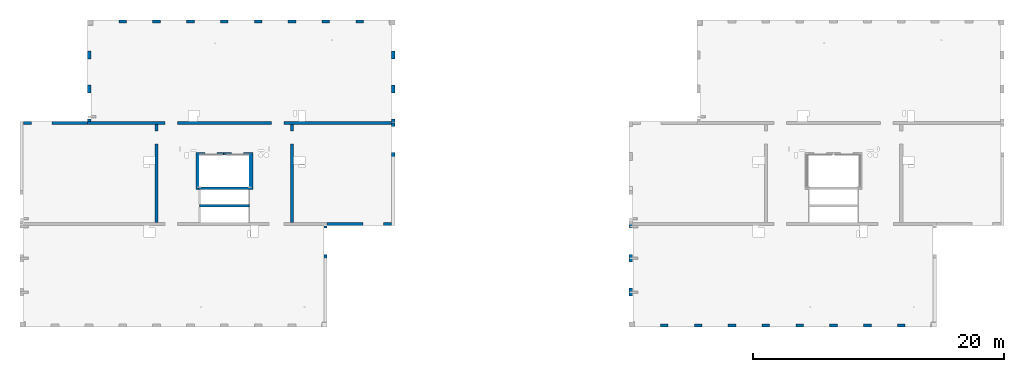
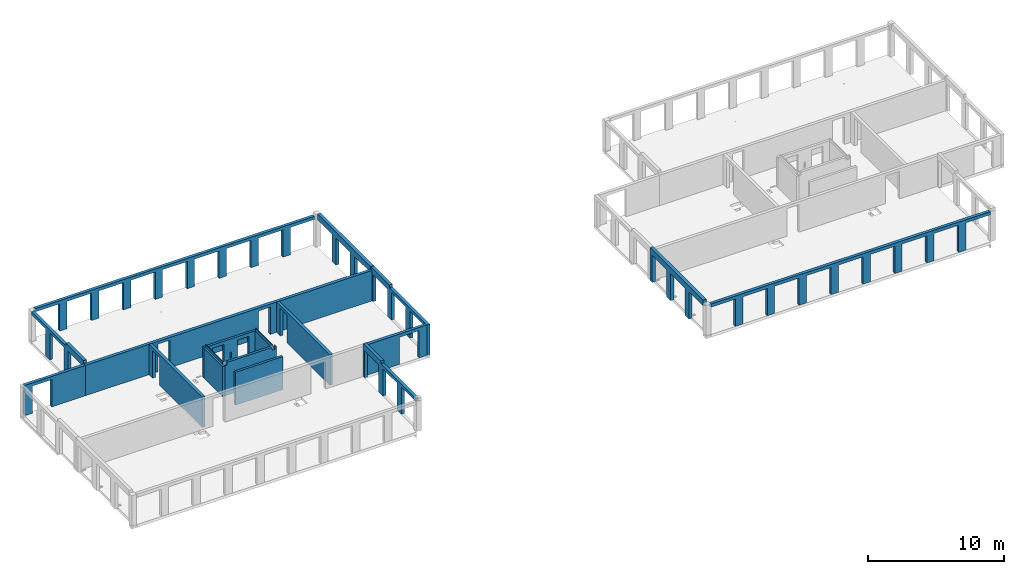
# One storey, part 3 of 8: 19 walls, 47 openings.
"""IFC2X3 building model written with IfcOpenShell, lengths in millimetres."""

from ifc_helpers import new_model, entity, si_unit, converted_unit, derived_unit, direction, frame, frame_2d, origin, origin_2d_with_axis, place, context, subcontext, project, spatial, rectangle, extrude, material, layer, layer_set, layer_usage, type_object, element, save


model = new_model("IFC2X3")

# Units and contexts
model_context = context("Model", 3, precision=0.01, world=origin(), true_north=direction((6.12303176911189e-17, 1.0)))
body_context = subcontext(model_context, "Body", "Model", "MODEL_VIEW")
ifc_project = project(units=[si_unit("LENGTHUNIT", "METRE", prefix="MILLI"), si_unit("AREAUNIT", "SQUARE_METRE"), si_unit("VOLUMEUNIT", "CUBIC_METRE"), converted_unit("PLANEANGLEUNIT", "DEGREE", entity("IfcRatioMeasure", 0.0174532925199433), si_unit("PLANEANGLEUNIT", "RADIAN"), dimensions=[0, 0, 0, 0, 0, 0, 0]), si_unit("MASSUNIT", "GRAM", prefix="KILO"), derived_unit("MASSDENSITYUNIT", [(si_unit("MASSUNIT", "GRAM", prefix="KILO"), 1), (si_unit("LENGTHUNIT", "METRE"), -3)]), si_unit("TIMEUNIT", "SECOND"), si_unit("FREQUENCYUNIT", "HERTZ"), si_unit("THERMODYNAMICTEMPERATUREUNIT", "DEGREE_CELSIUS"), derived_unit("THERMALTRANSMITTANCEUNIT", [(si_unit("MASSUNIT", "GRAM", prefix="KILO"), 1), (si_unit("THERMODYNAMICTEMPERATUREUNIT", "KELVIN"), -1), (si_unit("TIMEUNIT", "SECOND"), -3)]), derived_unit("VOLUMETRICFLOWRATEUNIT", [(si_unit("LENGTHUNIT", "METRE"), 3), (si_unit("TIMEUNIT", "SECOND"), -1)]), si_unit("ELECTRICCURRENTUNIT", "AMPERE"), si_unit("ELECTRICVOLTAGEUNIT", "VOLT"), si_unit("POWERUNIT", "WATT"), si_unit("FORCEUNIT", "NEWTON", prefix="KILO"), si_unit("ILLUMINANCEUNIT", "LUX"), si_unit("LUMINOUSFLUXUNIT", "LUMEN"), si_unit("LUMINOUSINTENSITYUNIT", "CANDELA"), derived_unit("USERDEFINED", [(si_unit("MASSUNIT", "GRAM", prefix="KILO"), -1), (si_unit("LENGTHUNIT", "METRE"), -2), (si_unit("TIMEUNIT", "SECOND"), 3), (si_unit("LUMINOUSFLUXUNIT", "LUMEN"), 1)]), derived_unit("LINEARVELOCITYUNIT", [(si_unit("LENGTHUNIT", "METRE"), 1), (si_unit("TIMEUNIT", "SECOND"), -1)]), si_unit("PRESSUREUNIT", "PASCAL"), derived_unit("USERDEFINED", [(si_unit("LENGTHUNIT", "METRE"), -2), (si_unit("MASSUNIT", "GRAM", prefix="KILO"), 1), (si_unit("TIMEUNIT", "SECOND"), -2)])], contexts=[model_context])

# Site, building, storey
site_placement = place(None, origin())
site = spatial("IfcSite", under=ifc_project, at=site_placement, Name="Default", CompositionType="ELEMENT")
building_placement = place(site_placement, origin())
building = spatial("IfcBuilding", under=site, at=building_placement, Name="niet gebruiken", CompositionType="ELEMENT")
storey_placement = place(building_placement, frame((0.0, 0.0, 45270.0)))
storey = spatial("IfcBuildingStorey", under=building, at=storey_placement, Name="15 vijftiende verdieping", CompositionType="ELEMENT", Elevation=45270.0)

# Wall, opening
ifc_material_1 = material(Name="NLRS_f2_beton ihwg")
ifc_layer_1 = layer(ifc_material_1, 250.0)
ifc_layer_set_1 = layer_set([ifc_layer_1], Name="Basic Wall:NLRS_22.21_WA_beton ihwg d=250_gen")
ifc_layer_usage_1 = layer_usage(ifc_layer_set_1, "AXIS2", "NEGATIVE", 125.0)
wall_type_1 = type_object("IfcWallType", Name="Basic Wall:NLRS_22.21_WA_beton ihwg d=250_gen", PredefinedType="STANDARD", material=ifc_layer_set_1)
wall_1_placement = place(storey_placement, frame((27170.0, 45031.0, -90.0)))
wall_1 = element("IfcWallStandardCase", 1, at=wall_1_placement, inside=storey, type_object=wall_type_1, material=ifc_layer_usage_1, Name="Basic Wall:NLRS_22.21_WA_beton ihwg d=250_gen", ObjectType="Basic Wall:NLRS_22.21_WA_beton ihwg d=250_gen", context=body_context, shape_type="SweptSolid", body=[
    extrude(rectangle(XDim=5130.0, YDim=249.999999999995, at=frame_2d((2565.0, 0.0), x_axis=(-1.0, 0.0))), origin(), (0.0, 0.0, 1.0), 2719.99999999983),
])
opening_1_placement = place(wall_1_placement, origin())
element("IfcOpeningElement", 2, at=opening_1_placement, cuts=wall_1, Name="Basic Wall:NLRS_22.21_WA_beton ihwg d=250_gen", ObjectType="Opening", context=body_context, shape_type="SweptSolid", body=[
    extrude(rectangle(XDim=2440.0, YDim=1640.0, at=origin_2d_with_axis()), frame((1460.0, -1649.0, 1220.0), z_axis=(0.0, 1.0, 0.0), x_axis=(0.0, 0.0, 1.0)), (0.0, 0.0, 1.0), 3048.0),
])

ifc_layer_usage_2 = layer_usage(ifc_layer_set_1, "AXIS2", "NEGATIVE", 125.0)
wall_2_placement = place(storey_placement, frame((37800.0, 44906.0, -90.0), z_axis=(0.0, 0.0, 1.0), x_axis=(0.0, -1.0, 0.0)))
wall_2 = element("IfcWallStandardCase", 3, at=wall_2_placement, inside=storey, type_object=wall_type_1, material=ifc_layer_usage_2, Name="Basic Wall:NLRS_22.21_WA_beton ihwg d=250_gen", ObjectType="Basic Wall:NLRS_22.21_WA_beton ihwg d=250_gen", context=body_context, shape_type="SweptSolid", body=[
    extrude(rectangle(XDim=7799.99999999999, YDim=250.000000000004, at=frame_2d((3900.0, 0.0), x_axis=(-1.0, 0.0))), origin(), (0.0, 0.0, 1.0), 2719.99999999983),
])
opening_2_placement = place(wall_2_placement, origin())
element("IfcOpeningElement", 4, at=opening_2_placement, cuts=wall_2, Name="Basic Wall:NLRS_22.21_WA_beton ihwg d=250_gen", ObjectType="Opening", context=body_context, shape_type="SweptSolid", body=[
    extrude(rectangle(XDim=2470.0, YDim=1006.0, at=frame_2d((-4.43378667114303e-12, 0.0), x_axis=(1.0, 0.0))), frame((1027.0, -1649.0, 1235.0), z_axis=(0.0, 1.0, 0.0), x_axis=(0.0, 0.0, 1.0)), (0.0, 0.0, 1.0), 3048.0),
])

ifc_layer_usage_3 = layer_usage(ifc_layer_set_1, "AXIS2", "NEGATIVE", 125.0)
wall_3_placement = place(storey_placement, frame((48600.0, 44906.0, -90.0), z_axis=(0.0, 0.0, 1.0), x_axis=(0.0, -1.0, 0.0)))
wall_3 = element("IfcWallStandardCase", 5, at=wall_3_placement, inside=storey, type_object=wall_type_1, material=ifc_layer_usage_3, Name="Basic Wall:NLRS_22.21_WA_beton ihwg d=250_gen", ObjectType="Basic Wall:NLRS_22.21_WA_beton ihwg d=250_gen", context=body_context, shape_type="SweptSolid", body=[
    extrude(rectangle(XDim=7799.99999999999, YDim=249.999999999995, at=frame_2d((3900.0, 0.0), x_axis=(-1.0, 0.0))), origin(), (0.0, 0.0, 1.0), 2719.99999999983),
])
opening_3_placement = place(wall_3_placement, origin())
element("IfcOpeningElement", 6, at=opening_3_placement, cuts=wall_3, Name="Basic Wall:NLRS_22.21_WA_beton ihwg d=250_gen", ObjectType="Opening", context=body_context, shape_type="SweptSolid", body=[
    extrude(rectangle(XDim=2470.0, YDim=1006.0, at=frame_2d((-4.43378667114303e-12, 0.0), x_axis=(1.0, 0.0))), frame((1027.0, -1649.0, 1235.0), z_axis=(0.0, 1.0, 0.0), x_axis=(0.0, 0.0, 1.0)), (0.0, 0.0, 1.0), 3048.0),
])

# Wall, openings
ifc_layer_usage_4 = layer_usage(ifc_layer_set_1, "AXIS2", "NEGATIVE", 125.0)
wall_4_placement = place(storey_placement, frame((32300.0, 45031.0, -90.0)))
wall_4 = element("IfcWallStandardCase", 7, at=wall_4_placement, inside=storey, type_object=wall_type_1, material=ifc_layer_usage_4, Name="Basic Wall:NLRS_22.21_WA_beton ihwg d=250_gen", ObjectType="Basic Wall:NLRS_22.21_WA_beton ihwg d=250_gen", context=body_context, shape_type="SweptSolid", body=[
    extrude(rectangle(XDim=24250.0, YDim=249.999999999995, at=frame_2d((12125.0, 0.0), x_axis=(-1.0, 0.0))), origin(), (0.0, 0.0, 1.0), 2719.99999999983),
])
opening_4_placement = place(wall_4_placement, origin())
element("IfcOpeningElement", 8, at=opening_4_placement, cuts=wall_4, Name="Basic Wall:NLRS_22.21_WA_beton ihwg d=250_gen", ObjectType="Opening", context=body_context, shape_type="SweptSolid", body=[
    extrude(rectangle(XDim=2470.0, YDim=1006.0, at=frame_2d((-4.43378667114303e-12, 0.0), x_axis=(1.0, 0.0))), frame((15148.0, -1649.0, 1235.0), z_axis=(0.0, 1.0, 0.0), x_axis=(0.0, 0.0, 1.0)), (0.0, 0.0, 1.0), 3048.0),
])
opening_5_placement = place(wall_4_placement, origin())
element("IfcOpeningElement", 9, at=opening_5_placement, cuts=wall_4, Name="Basic Wall:NLRS_22.21_WA_beton ihwg d=250_gen", ObjectType="Opening", context=body_context, shape_type="SweptSolid", body=[
    extrude(rectangle(XDim=2470.0, YDim=1006.0, at=frame_2d((4.43378667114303e-12, 2.1600499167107e-12), x_axis=(1.0, 0.0))), frame((6652.0, -1649.0, 1235.0), z_axis=(0.0, 1.0, 0.0), x_axis=(0.0, 0.0, 1.0)), (0.0, 0.0, 1.0), 3048.0),
])

# Wall, opening
ifc_layer_usage_5 = layer_usage(ifc_layer_set_1, "AXIS2", "NEGATIVE", 125.0)
wall_5_placement = place(storey_placement, frame((51400.0, 36981.0, -90.0)))
wall_5 = element("IfcWallStandardCase", 10, at=wall_5_placement, inside=storey, type_object=wall_type_1, material=ifc_layer_usage_5, Name="Basic Wall:NLRS_22.21_WA_beton ihwg d=250_gen", ObjectType="Basic Wall:NLRS_22.21_WA_beton ihwg d=250_gen", context=body_context, shape_type="SweptSolid", body=[
    extrude(rectangle(XDim=5150.0, YDim=250.000000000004, at=frame_2d((2575.0, 0.0), x_axis=(-1.0, 0.0))), origin(), (0.0, 0.0, 1.0), 2719.99999999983),
])
opening_6_placement = place(wall_5_placement, origin())
element("IfcOpeningElement", 11, at=opening_6_placement, cuts=wall_5, Name="Basic Wall:NLRS_22.21_WA_beton ihwg d=250_gen", ObjectType="Opening", context=body_context, shape_type="SweptSolid", body=[
    extrude(rectangle(XDim=2440.0, YDim=1640.0, at=frame_2d((-4.37694325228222e-12, 0.0), x_axis=(0.0, 1.0))), frame((3670.0, -1399.0, 1220.0), z_axis=(0.0, 1.0, 0.0), x_axis=(-1.0, 0.0, 0.0)), (0.0, 0.0, 1.0), 3048.0),
])

# Wall, openings
ifc_material_2 = material(Name="NLRS_f2_beton prefab")
ifc_layer_2 = layer(ifc_material_2, 250.0)
ifc_layer_set_2 = layer_set([ifc_layer_2], Name="Basic Wall:NLRS_21.21_WA_beton prefab d=250_gen")
ifc_layer_usage_6 = layer_usage(ifc_layer_set_2, "AXIS2", "NEGATIVE", 125.0)
wall_type_2 = type_object("IfcWallType", Name="Basic Wall:NLRS_21.21_WA_beton prefab d=250_gen", PredefinedType="STANDARD", material=ifc_layer_set_2)
wall_6_placement = place(storey_placement, frame((32425.0, 52846.0, -70.0), z_axis=(0.0, 0.0, 1.0), x_axis=(0.0, -1.0, 0.0)))
wall_6 = element("IfcWallStandardCase", 12, at=wall_6_placement, inside=storey, type_object=wall_type_2, material=ifc_layer_usage_6, Name="Basic Wall:NLRS_21.21_WA_beton prefab d=250_gen", ObjectType="Basic Wall:NLRS_21.21_WA_beton prefab d=250_gen", context=body_context, shape_type="SweptSolid", body=[
    extrude(rectangle(XDim=7670.00000000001, YDim=250.000000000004, at=frame_2d((3835.0, 0.0), x_axis=(-1.0, 0.0))), origin(), (0.0, 0.0, 1.0), 2949.99999999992),
])
opening_7_placement = place(wall_6_placement, origin())
element("IfcOpeningElement", 13, at=opening_7_placement, cuts=wall_6, Name="Basic Wall:NLRS_21.21_WA_beton prefab d=250_gen", ObjectType="Opening", context=body_context, shape_type="SweptSolid", body=[
    extrude(rectangle(XDim=2420.0, YDim=2080.0, at=frame_2d((0.0, 0.0), x_axis=(0.0, 1.0))), frame((1040.0, -1399.0, 1210.0), z_axis=(0.0, 1.0, 0.0), x_axis=(-1.0, 0.0, 0.0)), (0.0, 0.0, 1.0), 3048.0),
])
opening_8_placement = place(wall_6_placement, origin())
element("IfcOpeningElement", 14, at=opening_8_placement, cuts=wall_6, Name="Basic Wall:NLRS_21.21_WA_beton prefab d=250_gen", ObjectType="Opening", context=body_context, shape_type="SweptSolid", body=[
    extrude(rectangle(XDim=2420.0, YDim=2080.0, at=frame_2d((0.0, 0.0), x_axis=(0.0, 1.0))), frame((3740.0, -1399.0, 1210.0), z_axis=(0.0, 1.0, 0.0), x_axis=(-1.0, 0.0, 0.0)), (0.0, 0.0, 1.0), 3048.0),
])
opening_9_placement = place(wall_6_placement, origin())
element("IfcOpeningElement", 15, at=opening_9_placement, cuts=wall_6, Name="Basic Wall:NLRS_21.21_WA_beton prefab d=250_gen", ObjectType="Opening", context=body_context, shape_type="SweptSolid", body=[
    extrude(rectangle(XDim=2420.0, YDim=2080.0, at=frame_2d((0.0, 0.0), x_axis=(0.0, 1.0))), frame((6440.0, -1399.0, 1210.0), z_axis=(0.0, 1.0, 0.0), x_axis=(-1.0, 0.0, 0.0)), (0.0, 0.0, 1.0), 3048.0),
])
opening_10_placement = place(wall_6_placement, origin())
element("IfcOpeningElement", 16, at=opening_10_placement, cuts=wall_6, Name="Basic Wall:NLRS_21.21_WA_beton prefab d=250_gen", ObjectType="Opening", context=body_context, shape_type="SweptSolid", body=[
    extrude(rectangle(XDim=250.000000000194, YDim=5089.99999999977, at=frame_2d((4.32009983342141e-12, -4.32720526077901e-12), x_axis=(0.0, 1.0))), frame((2545.0, 125.0, 2825.0), z_axis=(0.0, -1.0, 0.0), x_axis=(-1.0, 0.0, 0.0)), (0.0, 0.0, 1.0), 250.0),
])

ifc_layer_usage_7 = layer_usage(ifc_layer_set_2, "AXIS2", "NEGATIVE", 125.0)
wall_7_placement = place(storey_placement, frame((56675.0, 45046.0, -70.0), z_axis=(0.0, 0.0, 1.0), x_axis=(0.0, -1.0, 0.0)))
wall_7 = element("IfcWallStandardCase", 17, at=wall_7_placement, inside=storey, type_object=wall_type_2, material=ifc_layer_usage_7, Name="Basic Wall:NLRS_21.21_WA_beton prefab d=250_gen", ObjectType="Basic Wall:NLRS_21.21_WA_beton prefab d=250_gen", context=body_context, shape_type="SweptSolid", body=[
    extrude(rectangle(XDim=8189.99999999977, YDim=249.999999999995, at=frame_2d((4094.99999999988, 0.0), x_axis=(-1.0, 0.0))), origin(), (0.0, 0.0, 1.0), 2949.99999999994),
])
opening_11_placement = place(wall_7_placement, origin())
element("IfcOpeningElement", 18, at=opening_11_placement, cuts=wall_7, Name="Basic Wall:NLRS_21.21_WA_beton prefab d=250_gen", ObjectType="Opening", context=body_context, shape_type="SweptSolid", body=[
    extrude(rectangle(XDim=2420.0, YDim=2080.0, at=frame_2d((0.0, 0.0), x_axis=(0.0, 1.0))), frame((1340.0, -1399.0, 1210.0), z_axis=(0.0, 1.0, 0.0), x_axis=(-1.0, 0.0, 0.0)), (0.0, 0.0, 1.0), 3048.0),
])
opening_12_placement = place(wall_7_placement, origin())
element("IfcOpeningElement", 19, at=opening_12_placement, cuts=wall_7, Name="Basic Wall:NLRS_21.21_WA_beton prefab d=250_gen", ObjectType="Opening", context=body_context, shape_type="SweptSolid", body=[
    extrude(rectangle(XDim=2420.0, YDim=2080.0, at=frame_2d((0.0, 0.0), x_axis=(0.0, 1.0))), frame((4040.0, -1399.0, 1210.0), z_axis=(0.0, 1.0, 0.0), x_axis=(-1.0, 0.0, 0.0)), (0.0, 0.0, 1.0), 3048.0),
])
opening_13_placement = place(wall_7_placement, origin())
element("IfcOpeningElement", 20, at=opening_13_placement, cuts=wall_7, Name="Basic Wall:NLRS_21.21_WA_beton prefab d=250_gen", ObjectType="Opening", context=body_context, shape_type="SweptSolid", body=[
    extrude(rectangle(XDim=2420.0, YDim=2080.0, at=frame_2d((0.0, 0.0), x_axis=(0.0, 1.0))), frame((6740.0, -1399.0, 1210.0), z_axis=(0.0, 1.0, 0.0), x_axis=(-1.0, 0.0, 0.0)), (0.0, 0.0, 1.0), 3048.0),
])
opening_14_placement = place(wall_7_placement, origin())
element("IfcOpeningElement", 21, at=opening_14_placement, cuts=wall_7, Name="Basic Wall:NLRS_21.21_WA_beton prefab d=250_gen", ObjectType="Opening", context=body_context, shape_type="SweptSolid", body=[
    extrude(rectangle(XDim=249.999999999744, YDim=5500.0000000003, at=frame_2d((-4.33431068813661e-12, -4.32009983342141e-12), x_axis=(1.0, 0.0))), frame((5440.0, 125.0, 2825.0), z_axis=(0.0, -1.0, 0.0), x_axis=(0.0, 0.0, 1.0)), (0.0, 0.0, 1.0), 250.0),
])

ifc_layer_usage_8 = layer_usage(ifc_layer_set_2, "AXIS2", "NEGATIVE", 125.0)
wall_8_placement = place(storey_placement, frame((51275.0, 29166.0, -70.0), z_axis=(0.0, 0.0, 1.0), x_axis=(0.0, 1.0, 0.0)))
wall_8 = element("IfcWallStandardCase", 22, at=wall_8_placement, inside=storey, type_object=wall_type_2, material=ifc_layer_usage_8, Name="Basic Wall:NLRS_21.21_WA_beton prefab d=250_gen", ObjectType="Basic Wall:NLRS_21.21_WA_beton prefab d=250_gen", context=body_context, shape_type="SweptSolid", body=[
    extrude(rectangle(XDim=7669.99999999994, YDim=249.999999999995, at=frame_2d((3834.99999999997, 0.0), x_axis=(-1.0, 0.0))), origin(), (0.0, 0.0, 1.0), 2949.99999999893),
])
opening_15_placement = place(wall_8_placement, origin())
element("IfcOpeningElement", 23, at=opening_15_placement, cuts=wall_8, Name="Basic Wall:NLRS_21.21_WA_beton prefab d=250_gen", ObjectType="Opening", context=body_context, shape_type="SweptSolid", body=[
    extrude(rectangle(XDim=2420.0, YDim=2080.0, at=frame_2d((-2.1600499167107e-12, 0.0), x_axis=(0.0, 1.0))), frame((1040.0, -1399.0, 1210.0), z_axis=(0.0, 1.0, 0.0), x_axis=(-1.0, 0.0, 0.0)), (0.0, 0.0, 1.0), 3048.0),
])
opening_16_placement = place(wall_8_placement, origin())
element("IfcOpeningElement", 24, at=opening_16_placement, cuts=wall_8, Name="Basic Wall:NLRS_21.21_WA_beton prefab d=250_gen", ObjectType="Opening", context=body_context, shape_type="SweptSolid", body=[
    extrude(rectangle(XDim=2420.0, YDim=2080.0, at=frame_2d((2.1600499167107e-12, 0.0), x_axis=(0.0, 1.0))), frame((6440.0, -1399.0, 1210.0), z_axis=(0.0, 1.0, 0.0), x_axis=(-1.0, 0.0, 0.0)), (0.0, 0.0, 1.0), 3048.0),
])
opening_17_placement = place(wall_8_placement, origin())
element("IfcOpeningElement", 25, at=opening_17_placement, cuts=wall_8, Name="Basic Wall:NLRS_21.21_WA_beton prefab d=250_gen", ObjectType="Opening", context=body_context, shape_type="SweptSolid", body=[
    extrude(rectangle(XDim=2420.0, YDim=2080.0, at=frame_2d((2.1600499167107e-12, 0.0), x_axis=(0.0, 1.0))), frame((3740.0, -1399.0, 1210.0), z_axis=(0.0, 1.0, 0.0), x_axis=(-1.0, 0.0, 0.0)), (0.0, 0.0, 1.0), 3048.0),
])
opening_18_placement = place(wall_8_placement, origin())
element("IfcOpeningElement", 26, at=opening_18_placement, cuts=wall_8, Name="Basic Wall:NLRS_21.21_WA_beton prefab d=250_gen", ObjectType="Opening", context=body_context, shape_type="SweptSolid", body=[
    extrude(rectangle(XDim=249.999999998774, YDim=5090.00000000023, at=frame_2d((0.0, 4.32720526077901e-12), x_axis=(0.0, 1.0))), frame((2545.0, 125.0, 2825.0), z_axis=(0.0, -1.0, 0.0), x_axis=(-1.0, 0.0, 0.0)), (0.0, 0.0, 1.0), 250.0),
])

# Wall
ifc_layer_3 = layer(ifc_material_2, 200.0)
ifc_layer_set_3 = layer_set([ifc_layer_3], Name="Basic Wall:NLRS_21.21_WA_beton prefab d=200_gen")
ifc_layer_usage_9 = layer_usage(ifc_layer_set_3, "AXIS2", "NEGATIVE", 100.0)
wall_type_3 = type_object("IfcWallType", Name="Basic Wall:NLRS_21.21_WA_beton prefab d=200_gen", PredefinedType="STANDARD", material=ifc_layer_set_3)
wall_9_placement = place(storey_placement, frame((41200.0, 38426.0, -70.0)))
element("IfcWallStandardCase", 27, at=wall_9_placement, inside=storey, type_object=wall_type_3, material=ifc_layer_usage_9, Name="Basic Wall:NLRS_21.21_WA_beton prefab d=200_gen", ObjectType="Basic Wall:NLRS_21.21_WA_beton prefab d=200_gen", context=body_context, shape_type="SweptSolid", body=[
    extrude(rectangle(XDim=3999.99999999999, YDim=199.999999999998, at=frame_2d((2000.0, 0.0), x_axis=(-1.0, 0.0))), origin(), (0.0, 0.0, 1.0), 2950.00000000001),
])

# Wall, openings
ifc_layer_4 = layer(ifc_material_2, 200.0)
ifc_layer_set_4 = layer_set([ifc_layer_4], Name="Basic Wall:NLRS_22.21_WA_beton prefab d=200_gen")
ifc_layer_usage_10 = layer_usage(ifc_layer_set_4, "AXIS2", "NEGATIVE", 100.0)
wall_type_4 = type_object("IfcWallType", Name="Basic Wall:NLRS_22.21_WA_beton prefab d=200_gen", PredefinedType="STANDARD", material=ifc_layer_set_4)
wall_10_placement = place(storey_placement, frame((40925.0, 42596.0, -70.0)))
wall_10 = element("IfcWallStandardCase", 28, at=wall_10_placement, inside=storey, type_object=wall_type_4, material=ifc_layer_usage_10, Name="Basic Wall:NLRS_22.21_WA_beton prefab d=200_gen", ObjectType="Basic Wall:NLRS_22.21_WA_beton prefab d=200_gen", context=body_context, shape_type="SweptSolid", body=[
    extrude(rectangle(XDim=4549.99999999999, YDim=200.000000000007, at=frame_2d((2274.99999999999, 7.8159700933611e-13), x_axis=(-1.0, 0.0))), origin(), (0.0, 0.0, 1.0), 2700.00000000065),
])
opening_19_placement = place(wall_10_placement, origin())
element("IfcOpeningElement", 29, at=opening_19_placement, cuts=wall_10, Name="Basic Wall:NLRS_22.21_WA_beton prefab d=200_gen", ObjectType="Opening", context=body_context, shape_type="SweptSolid", body=[
    extrude(rectangle(XDim=2430.0, YDim=980.000000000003, at=origin_2d_with_axis()), frame((1219.99984910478, -1624.0, 1195.0), z_axis=(0.0, 1.0, 0.0), x_axis=(0.0, 0.0, 1.0)), (0.0, 0.0, 1.0), 3048.0),
])
opening_20_placement = place(wall_10_placement, origin())
element("IfcOpeningElement", 30, at=opening_20_placement, cuts=wall_10, Name="Basic Wall:NLRS_22.21_WA_beton prefab d=200_gen", ObjectType="Opening", context=body_context, shape_type="SweptSolid", body=[
    extrude(rectangle(XDim=2430.0, YDim=980.000000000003, at=origin_2d_with_axis()), frame((3329.99984910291, -1624.0, 1195.0), z_axis=(0.0, 1.0, 0.0), x_axis=(0.0, 0.0, 1.0)), (0.0, 0.0, 1.0), 3048.0),
])
opening_21_placement = place(wall_10_placement, origin())
element("IfcOpeningElement", 31, at=opening_21_placement, cuts=wall_10, Name="Basic Wall:NLRS_22.21_WA_beton prefab d=200_gen", ObjectType="Opening", context=body_context, shape_type="SweptSolid", body=[
    extrude(rectangle(XDim=505.000000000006, YDim=135.000000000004, at=frame_2d((-4.33431068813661e-12, 0.0), x_axis=(1.0, 0.0))), frame((2275.0, -1624.0, 1272.50000000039), z_axis=(0.0, 1.0, 0.0), x_axis=(0.0, 0.0, 1.0)), (0.0, 0.0, 1.0), 3048.0),
])

# Wall
ifc_layer_usage_11 = layer_usage(ifc_layer_set_4, "AXIS2", "NEGATIVE", 100.0)
wall_11_placement = place(storey_placement, frame((41025.0, 42496.0, -70.0), z_axis=(0.0, 0.0, 1.0), x_axis=(0.0, -1.0, 0.0)))
element("IfcWallStandardCase", 32, at=wall_11_placement, inside=storey, type_object=wall_type_4, material=ifc_layer_usage_11, Name="Basic Wall:NLRS_22.21_WA_beton prefab d=200_gen", ObjectType="Basic Wall:NLRS_22.21_WA_beton prefab d=200_gen", context=body_context, shape_type="SweptSolid", body=[
    extrude(rectangle(XDim=2749.99999999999, YDim=200.000000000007, at=frame_2d((1375.0, 0.0), x_axis=(-1.0, 0.0))), origin(), (0.0, 0.0, 1.0), 2699.99999999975),
])

# Wall, openings
ifc_layer_usage_12 = layer_usage(ifc_layer_set_4, "AXIS2", "NEGATIVE", 100.0)
wall_12_placement = place(storey_placement, frame((45475.0, 39846.0, -70.0), z_axis=(0.0, 0.0, 1.0), x_axis=(-1.0, 0.0, 0.0)))
wall_12 = element("IfcWallStandardCase", 33, at=wall_12_placement, inside=storey, type_object=wall_type_4, material=ifc_layer_usage_12, Name="Basic Wall:NLRS_22.21_WA_beton prefab d=200_gen", ObjectType="Basic Wall:NLRS_22.21_WA_beton prefab d=200_gen", context=body_context, shape_type="SweptSolid", body=[
    extrude(rectangle(XDim=4349.99999999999, YDim=200.000000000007, at=frame_2d((2174.99999999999, 0.0), x_axis=(-1.0, 0.0))), origin(), (0.0, 0.0, 1.0), 2949.99999999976),
])
opening_22_placement = place(wall_12_placement, origin())
element("IfcOpeningElement", 34, at=opening_22_placement, cuts=wall_12, Name="Basic Wall:NLRS_22.21_WA_beton prefab d=200_gen", ObjectType="Opening", context=body_context, shape_type="SweptSolid", body=[
    extrude(rectangle(XDim=249.999999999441, YDim=274.9999671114, at=frame_2d((0.0, -4.33431068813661e-12), x_axis=(1.0, 0.0))), frame((4312.50001644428, 100.0, 2825.0), z_axis=(0.0, -1.0, 0.0), x_axis=(0.0, 0.0, 1.0)), (0.0, 0.0, 1.0), 200.0),
])
opening_23_placement = place(wall_12_placement, origin())
element("IfcOpeningElement", 35, at=opening_23_placement, cuts=wall_12, Name="Basic Wall:NLRS_22.21_WA_beton prefab d=200_gen", ObjectType="Opening", context=body_context, shape_type="SweptSolid", body=[
    extrude(rectangle(XDim=249.999999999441, YDim=274.999967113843, at=frame_2d((-4.32009983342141e-12, 0.0), x_axis=(0.0, 1.0))), frame((237.499983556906, 100.0, 2825.0), z_axis=(0.0, -1.0, 0.0), x_axis=(-1.0, 0.0, 0.0)), (0.0, 0.0, 1.0), 200.0),
])

# Wall
ifc_layer_usage_13 = layer_usage(ifc_layer_set_4, "AXIS2", "NEGATIVE", 100.0)
wall_13_placement = place(storey_placement, frame((45375.0, 39946.0, -70.0), z_axis=(0.0, 0.0, 1.0), x_axis=(0.0, 1.0, 0.0)))
element("IfcWallStandardCase", 36, at=wall_13_placement, inside=storey, type_object=wall_type_4, material=ifc_layer_usage_13, Name="Basic Wall:NLRS_22.21_WA_beton prefab d=200_gen", ObjectType="Basic Wall:NLRS_22.21_WA_beton prefab d=200_gen", context=body_context, shape_type="SweptSolid", body=[
    extrude(rectangle(XDim=2549.99999999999, YDim=200.000000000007, at=frame_2d((1275.0, 0.0), x_axis=(-1.0, 0.0))), origin(), (0.0, 0.0, 1.0), 2699.99999999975),
])

# Wall, openings
ifc_layer_5 = layer(ifc_material_1, 250.0)
ifc_layer_set_5 = layer_set([ifc_layer_5], Name="Basic Wall:NLRS_21.21_WA_beton ihwg d=250_gen")
ifc_layer_usage_14 = layer_usage(ifc_layer_set_5, "AXIS2", "NEGATIVE", 125.0)
wall_type_5 = type_object("IfcWallType", Name="Basic Wall:NLRS_21.21_WA_beton ihwg d=250_gen", PredefinedType="STANDARD", material=ifc_layer_set_5)
wall_14_placement = place(storey_placement, frame((75930.0, 28881.0, -90.0)))
wall_14 = element("IfcWallStandardCase", 37, at=wall_14_placement, inside=storey, type_object=wall_type_5, material=ifc_layer_usage_14, Name="Basic Wall:NLRS_21.21_WA_beton ihwg d=250_gen", ObjectType="Basic Wall:NLRS_21.21_WA_beton ihwg d=250_gen", context=body_context, shape_type="SweptSolid", body=[
    extrude(rectangle(XDim=23640.0000000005, YDim=250.000000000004, at=frame_2d((11820.0000000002, -8.66862137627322e-13), x_axis=(-1.0, 0.0))), origin(), (0.0, 0.0, 1.0), 2720.00000000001),
])
opening_24_placement = place(wall_14_placement, origin())
element("IfcOpeningElement", 38, at=opening_24_placement, cuts=wall_14, Name="Basic Wall:NLRS_21.21_WA_beton ihwg d=250_gen", ObjectType="Opening", context=body_context, shape_type="SweptSolid", body=[
    extrude(rectangle(XDim=2440.0, YDim=2080.0, at=frame_2d((8.64019966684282e-12, 0.0), x_axis=(0.0, 1.0))), frame((22620.0, -1399.0, 1220.0), z_axis=(0.0, 1.0, 0.0), x_axis=(-1.0, 0.0, 0.0)), (0.0, 0.0, 1.0), 3048.0),
])
opening_25_placement = place(wall_14_placement, origin())
element("IfcOpeningElement", 39, at=opening_25_placement, cuts=wall_14, Name="Basic Wall:NLRS_21.21_WA_beton ihwg d=250_gen", ObjectType="Opening", context=body_context, shape_type="SweptSolid", body=[
    extrude(rectangle(XDim=2440.0, YDim=2080.0, at=frame_2d((8.64019966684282e-12, 0.0), x_axis=(0.0, 1.0))), frame((19920.0, -1399.0, 1220.0), z_axis=(0.0, 1.0, 0.0), x_axis=(-1.0, 0.0, 0.0)), (0.0, 0.0, 1.0), 3048.0),
])
opening_26_placement = place(wall_14_placement, origin())
element("IfcOpeningElement", 40, at=opening_26_placement, cuts=wall_14, Name="Basic Wall:NLRS_21.21_WA_beton ihwg d=250_gen", ObjectType="Opening", context=body_context, shape_type="SweptSolid", body=[
    extrude(rectangle(XDim=2440.0, YDim=2080.0, at=frame_2d((8.64019966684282e-12, 0.0), x_axis=(0.0, 1.0))), frame((17220.0, -1399.0, 1220.0), z_axis=(0.0, 1.0, 0.0), x_axis=(-1.0, 0.0, 0.0)), (0.0, 0.0, 1.0), 3048.0),
])
opening_27_placement = place(wall_14_placement, origin())
element("IfcOpeningElement", 41, at=opening_27_placement, cuts=wall_14, Name="Basic Wall:NLRS_21.21_WA_beton ihwg d=250_gen", ObjectType="Opening", context=body_context, shape_type="SweptSolid", body=[
    extrude(rectangle(XDim=2440.0, YDim=2080.0, at=frame_2d((-8.64019966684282e-12, 0.0), x_axis=(0.0, 1.0))), frame((14520.0, -1399.0, 1220.0), z_axis=(0.0, 1.0, 0.0), x_axis=(-1.0, 0.0, 0.0)), (0.0, 0.0, 1.0), 3048.0),
])
opening_28_placement = place(wall_14_placement, origin())
element("IfcOpeningElement", 42, at=opening_28_placement, cuts=wall_14, Name="Basic Wall:NLRS_21.21_WA_beton ihwg d=250_gen", ObjectType="Opening", context=body_context, shape_type="SweptSolid", body=[
    extrude(rectangle(XDim=2440.0, YDim=2080.0, at=frame_2d((8.64019966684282e-12, 0.0), x_axis=(0.0, 1.0))), frame((11820.0, -1399.0, 1220.0), z_axis=(0.0, 1.0, 0.0), x_axis=(-1.0, 0.0, 0.0)), (0.0, 0.0, 1.0), 3048.0),
])
opening_29_placement = place(wall_14_placement, origin())
element("IfcOpeningElement", 43, at=opening_29_placement, cuts=wall_14, Name="Basic Wall:NLRS_21.21_WA_beton ihwg d=250_gen", ObjectType="Opening", context=body_context, shape_type="SweptSolid", body=[
    extrude(rectangle(XDim=2440.0, YDim=2080.0, at=frame_2d((8.64019966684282e-12, 0.0), x_axis=(0.0, 1.0))), frame((9120.0, -1399.0, 1220.0), z_axis=(0.0, 1.0, 0.0), x_axis=(-1.0, 0.0, 0.0)), (0.0, 0.0, 1.0), 3048.0),
])
opening_30_placement = place(wall_14_placement, origin())
element("IfcOpeningElement", 44, at=opening_30_placement, cuts=wall_14, Name="Basic Wall:NLRS_21.21_WA_beton ihwg d=250_gen", ObjectType="Opening", context=body_context, shape_type="SweptSolid", body=[
    extrude(rectangle(XDim=2440.0, YDim=2080.0, at=frame_2d((-8.64019966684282e-12, 0.0), x_axis=(0.0, 1.0))), frame((6420.0, -1399.0, 1220.0), z_axis=(0.0, 1.0, 0.0), x_axis=(-1.0, 0.0, 0.0)), (0.0, 0.0, 1.0), 3048.0),
])
opening_31_placement = place(wall_14_placement, origin())
element("IfcOpeningElement", 45, at=opening_31_placement, cuts=wall_14, Name="Basic Wall:NLRS_21.21_WA_beton ihwg d=250_gen", ObjectType="Opening", context=body_context, shape_type="SweptSolid", body=[
    extrude(rectangle(XDim=2440.0, YDim=2080.0, at=frame_2d((-8.64019966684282e-12, 0.0), x_axis=(0.0, 1.0))), frame((3720.0, -1399.0, 1220.0), z_axis=(0.0, 1.0, 0.0), x_axis=(-1.0, 0.0, 0.0)), (0.0, 0.0, 1.0), 3048.0),
])
opening_32_placement = place(wall_14_placement, origin())
element("IfcOpeningElement", 46, at=opening_32_placement, cuts=wall_14, Name="Basic Wall:NLRS_21.21_WA_beton ihwg d=250_gen", ObjectType="Opening", context=body_context, shape_type="SweptSolid", body=[
    extrude(rectangle(XDim=2440.0, YDim=2080.0, at=frame_2d((0.0, 0.0), x_axis=(0.0, 1.0))), frame((1020.0, -1399.0, 1220.0), z_axis=(0.0, 1.0, 0.0), x_axis=(-1.0, 0.0, 0.0)), (0.0, 0.0, 1.0), 3048.0),
])

ifc_layer_usage_15 = layer_usage(ifc_layer_set_5, "AXIS2", "NEGATIVE", 125.0)
wall_15_placement = place(storey_placement, frame((56370.0, 53131.0, -90.0), z_axis=(0.0, 0.0, 1.0), x_axis=(-1.0, 0.0, 0.0)))
wall_15 = element("IfcWallStandardCase", 47, at=wall_15_placement, inside=storey, type_object=wall_type_5, material=ifc_layer_usage_15, Name="Basic Wall:NLRS_21.21_WA_beton ihwg d=250_gen", ObjectType="Basic Wall:NLRS_21.21_WA_beton ihwg d=250_gen", context=body_context, shape_type="SweptSolid", body=[
    extrude(rectangle(XDim=23640.0000000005, YDim=249.999999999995, at=frame_2d((11820.0000000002, 5.82645043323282e-13), x_axis=(-1.0, 0.0))), origin(), (0.0, 0.0, 1.0), 2720.00000000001),
])
opening_33_placement = place(wall_15_placement, origin())
element("IfcOpeningElement", 48, at=opening_33_placement, cuts=wall_15, Name="Basic Wall:NLRS_21.21_WA_beton ihwg d=250_gen", ObjectType="Opening", context=body_context, shape_type="SweptSolid", body=[
    extrude(rectangle(XDim=2440.0, YDim=2080.0, at=frame_2d((-2.1600499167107e-12, 0.0), x_axis=(0.0, 1.0))), frame((22620.0, -1399.0, 1220.0), z_axis=(0.0, 1.0, 0.0), x_axis=(-1.0, 0.0, 0.0)), (0.0, 0.0, 1.0), 3048.0),
])
opening_34_placement = place(wall_15_placement, origin())
element("IfcOpeningElement", 49, at=opening_34_placement, cuts=wall_15, Name="Basic Wall:NLRS_21.21_WA_beton ihwg d=250_gen", ObjectType="Opening", context=body_context, shape_type="SweptSolid", body=[
    extrude(rectangle(XDim=2440.0, YDim=2080.0, at=frame_2d((2.1600499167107e-12, 0.0), x_axis=(0.0, 1.0))), frame((19920.0, -1399.0, 1220.0), z_axis=(0.0, 1.0, 0.0), x_axis=(-1.0, 0.0, 0.0)), (0.0, 0.0, 1.0), 3048.0),
])
opening_35_placement = place(wall_15_placement, origin())
element("IfcOpeningElement", 50, at=opening_35_placement, cuts=wall_15, Name="Basic Wall:NLRS_21.21_WA_beton ihwg d=250_gen", ObjectType="Opening", context=body_context, shape_type="SweptSolid", body=[
    extrude(rectangle(XDim=2440.0, YDim=2079.99999999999, at=frame_2d((2.1600499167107e-12, 0.0), x_axis=(0.0, 1.0))), frame((17220.0, -1399.0, 1220.0), z_axis=(0.0, 1.0, 0.0), x_axis=(-1.0, 0.0, 0.0)), (0.0, 0.0, 1.0), 3048.0),
])
opening_36_placement = place(wall_15_placement, origin())
element("IfcOpeningElement", 51, at=opening_36_placement, cuts=wall_15, Name="Basic Wall:NLRS_21.21_WA_beton ihwg d=250_gen", ObjectType="Opening", context=body_context, shape_type="SweptSolid", body=[
    extrude(rectangle(XDim=2440.0, YDim=2080.0, at=frame_2d((0.0, 0.0), x_axis=(0.0, 1.0))), frame((14520.0, -1399.0, 1220.0), z_axis=(0.0, 1.0, 0.0), x_axis=(-1.0, 0.0, 0.0)), (0.0, 0.0, 1.0), 3048.0),
])
opening_37_placement = place(wall_15_placement, origin())
element("IfcOpeningElement", 52, at=opening_37_placement, cuts=wall_15, Name="Basic Wall:NLRS_21.21_WA_beton ihwg d=250_gen", ObjectType="Opening", context=body_context, shape_type="SweptSolid", body=[
    extrude(rectangle(XDim=2440.0, YDim=2080.0, at=frame_2d((0.0, 0.0), x_axis=(0.0, 1.0))), frame((11820.0, -1399.0, 1220.0), z_axis=(0.0, 1.0, 0.0), x_axis=(-1.0, 0.0, 0.0)), (0.0, 0.0, 1.0), 3048.0),
])
opening_38_placement = place(wall_15_placement, origin())
element("IfcOpeningElement", 53, at=opening_38_placement, cuts=wall_15, Name="Basic Wall:NLRS_21.21_WA_beton ihwg d=250_gen", ObjectType="Opening", context=body_context, shape_type="SweptSolid", body=[
    extrude(rectangle(XDim=2440.0, YDim=2080.0, at=frame_2d((0.0, 0.0), x_axis=(0.0, 1.0))), frame((9120.0, -1399.0, 1220.0), z_axis=(0.0, 1.0, 0.0), x_axis=(-1.0, 0.0, 0.0)), (0.0, 0.0, 1.0), 3048.0),
])
opening_39_placement = place(wall_15_placement, origin())
element("IfcOpeningElement", 54, at=opening_39_placement, cuts=wall_15, Name="Basic Wall:NLRS_21.21_WA_beton ihwg d=250_gen", ObjectType="Opening", context=body_context, shape_type="SweptSolid", body=[
    extrude(rectangle(XDim=2440.0, YDim=2080.0, at=frame_2d((0.0, 0.0), x_axis=(0.0, 1.0))), frame((6420.0, -1399.0, 1220.0), z_axis=(0.0, 1.0, 0.0), x_axis=(-1.0, 0.0, 0.0)), (0.0, 0.0, 1.0), 3048.0),
])
opening_40_placement = place(wall_15_placement, origin())
element("IfcOpeningElement", 55, at=opening_40_placement, cuts=wall_15, Name="Basic Wall:NLRS_21.21_WA_beton ihwg d=250_gen", ObjectType="Opening", context=body_context, shape_type="SweptSolid", body=[
    extrude(rectangle(XDim=2440.0, YDim=2080.0, at=frame_2d((0.0, 0.0), x_axis=(0.0, 1.0))), frame((3720.0, -1399.0, 1220.0), z_axis=(0.0, 1.0, 0.0), x_axis=(-1.0, 0.0, 0.0)), (0.0, 0.0, 1.0), 3048.0),
])
opening_41_placement = place(wall_15_placement, origin())
element("IfcOpeningElement", 56, at=opening_41_placement, cuts=wall_15, Name="Basic Wall:NLRS_21.21_WA_beton ihwg d=250_gen", ObjectType="Opening", context=body_context, shape_type="SweptSolid", body=[
    extrude(rectangle(XDim=2440.0, YDim=2080.0, at=frame_2d((8.64019966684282e-12, 0.0), x_axis=(0.0, 1.0))), frame((1020.0, -1399.0, 1220.0), z_axis=(0.0, 1.0, 0.0), x_axis=(-1.0, 0.0, 0.0)), (0.0, 0.0, 1.0), 3048.0),
])

ifc_layer_6 = layer(ifc_material_2, 270.0)
ifc_layer_set_6 = layer_set([ifc_layer_6], Name="Basic Wall:NLRS_21.21_WA_beton prefab d=270_gen")
ifc_layer_usage_16 = layer_usage(ifc_layer_set_6, "AXIS2", "NEGATIVE", 135.0)
wall_type_6 = type_object("IfcWallType", Name="Basic Wall:NLRS_21.21_WA_beton prefab d=270_gen", PredefinedType="STANDARD", material=ifc_layer_set_6)
wall_16_placement = place(storey_placement, frame((75635.0, 36946.0, -70.0), z_axis=(0.0, 0.0, 1.0), x_axis=(0.0, -1.0, 0.0)))
wall_16 = element("IfcWallStandardCase", 57, at=wall_16_placement, inside=storey, type_object=wall_type_6, material=ifc_layer_usage_16, Name="Basic Wall:NLRS_21.21_WA_beton prefab d=270_gen", ObjectType="Basic Wall:NLRS_21.21_WA_beton prefab d=270_gen", context=body_context, shape_type="SweptSolid", body=[
    extrude(rectangle(XDim=7779.99999999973, YDim=270.000000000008, at=frame_2d((3889.99999999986, 0.0), x_axis=(-1.0, 0.0))), origin(), (0.0, 0.0, 1.0), 2949.99999999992),
])
opening_42_placement = place(wall_16_placement, origin())
element("IfcOpeningElement", 58, at=opening_42_placement, cuts=wall_16, Name="Basic Wall:NLRS_21.21_WA_beton prefab d=270_gen", ObjectType="Opening", context=body_context, shape_type="SweptSolid", body=[
    extrude(rectangle(XDim=2420.0, YDim=2080.0, at=frame_2d((-2.1600499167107e-12, 0.0), x_axis=(0.0, 1.0))), frame((1340.0, -1389.0, 1210.0), z_axis=(0.0, 1.0, 0.0), x_axis=(-1.0, 0.0, 0.0)), (0.0, 0.0, 1.0), 3048.0),
])
opening_43_placement = place(wall_16_placement, origin())
element("IfcOpeningElement", 59, at=opening_43_placement, cuts=wall_16, Name="Basic Wall:NLRS_21.21_WA_beton prefab d=270_gen", ObjectType="Opening", context=body_context, shape_type="SweptSolid", body=[
    extrude(rectangle(XDim=2420.0, YDim=2080.0, at=frame_2d((2.1600499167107e-12, 0.0), x_axis=(0.0, 1.0))), frame((4040.0, -1389.0, 1210.0), z_axis=(0.0, 1.0, 0.0), x_axis=(-1.0, 0.0, 0.0)), (0.0, 0.0, 1.0), 3048.0),
])
opening_44_placement = place(wall_16_placement, origin())
element("IfcOpeningElement", 60, at=opening_44_placement, cuts=wall_16, Name="Basic Wall:NLRS_21.21_WA_beton prefab d=270_gen", ObjectType="Opening", context=body_context, shape_type="SweptSolid", body=[
    extrude(rectangle(XDim=2420.0, YDim=2080.0, at=frame_2d((2.1600499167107e-12, 0.0), x_axis=(0.0, 1.0))), frame((6740.0, -1389.0, 1210.0), z_axis=(0.0, 1.0, 0.0), x_axis=(-1.0, 0.0, 0.0)), (0.0, 0.0, 1.0), 3048.0),
])

ifc_layer_usage_17 = layer_usage(ifc_layer_set_6, "AXIS2", "NEGATIVE", 135.0)
wall_17_placement = place(storey_placement, frame((56665.0, 52846.0, -70.0), z_axis=(0.0, 0.0, 1.0), x_axis=(0.0, -1.0, 0.0)))
wall_17 = element("IfcWallStandardCase", 61, at=wall_17_placement, inside=storey, type_object=wall_type_6, material=ifc_layer_usage_17, Name="Basic Wall:NLRS_21.21_WA_beton prefab d=270_gen", ObjectType="Basic Wall:NLRS_21.21_WA_beton prefab d=270_gen", context=body_context, shape_type="SweptSolid", body=[
    extrude(rectangle(XDim=7780.00000000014, YDim=270.000000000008, at=frame_2d((3890.00000000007, 0.0), x_axis=(-1.0, 0.0))), origin(), (0.0, 0.0, 1.0), 2949.99999999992),
])
opening_45_placement = place(wall_17_placement, origin())
element("IfcOpeningElement", 62, at=opening_45_placement, cuts=wall_17, Name="Basic Wall:NLRS_21.21_WA_beton prefab d=270_gen", ObjectType="Opening", context=body_context, shape_type="SweptSolid", body=[
    extrude(rectangle(XDim=2420.0, YDim=2080.0, at=frame_2d((8.64019966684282e-12, 0.0), x_axis=(0.0, 1.0))), frame((1040.0, -1389.0, 1210.0), z_axis=(0.0, 1.0, 0.0), x_axis=(-1.0, 0.0, 0.0)), (0.0, 0.0, 1.0), 3048.0),
])
opening_46_placement = place(wall_17_placement, origin())
element("IfcOpeningElement", 63, at=opening_46_placement, cuts=wall_17, Name="Basic Wall:NLRS_21.21_WA_beton prefab d=270_gen", ObjectType="Opening", context=body_context, shape_type="SweptSolid", body=[
    extrude(rectangle(XDim=2420.0, YDim=2080.0, at=frame_2d((0.0, 0.0), x_axis=(0.0, 1.0))), frame((3740.0, -1389.0, 1210.0), z_axis=(0.0, 1.0, 0.0), x_axis=(-1.0, 0.0, 0.0)), (0.0, 0.0, 1.0), 3048.0),
])
opening_47_placement = place(wall_17_placement, origin())
element("IfcOpeningElement", 64, at=opening_47_placement, cuts=wall_17, Name="Basic Wall:NLRS_21.21_WA_beton prefab d=270_gen", ObjectType="Opening", context=body_context, shape_type="SweptSolid", body=[
    extrude(rectangle(XDim=2420.0, YDim=2080.0, at=frame_2d((0.0, 0.0), x_axis=(0.0, 1.0))), frame((6440.0, -1389.0, 1210.0), z_axis=(0.0, 1.0, 0.0), x_axis=(-1.0, 0.0, 0.0)), (0.0, 0.0, 1.0), 3048.0),
])

# Walls
ifc_layer_7 = layer(ifc_material_2, 60.0)
ifc_layer_set_7 = layer_set([ifc_layer_7], Name="Basic Wall:NLRS_22.21_WA_beton prefab d=60_gen")
ifc_layer_usage_18 = layer_usage(ifc_layer_set_7, "AXIS2", "NEGATIVE", 30.0)
wall_type_7 = type_object("IfcWallType", Name="Basic Wall:NLRS_22.21_WA_beton prefab d=60_gen", PredefinedType="STANDARD", material=ifc_layer_set_7)
wall_18_placement = place(storey_placement, frame((41095.0, 42476.0, 2630.0), z_axis=(0.0, 0.0, 1.0), x_axis=(0.0, -1.0, 0.0)))
element("IfcWallStandardCase", 65, at=wall_18_placement, inside=storey, type_object=wall_type_7, material=ifc_layer_usage_18, Name="Basic Wall:NLRS_22.21_WA_beton prefab d=60_gen", ObjectType="Basic Wall:NLRS_22.21_WA_beton prefab d=60_gen", context=body_context, shape_type="SweptSolid", body=[
    extrude(rectangle(XDim=2509.99999999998, YDim=60.0000000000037, at=frame_2d((1254.99999999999, 0.0), x_axis=(-1.0, 0.0))), origin(), (0.0, 0.0, 1.0), 250.000000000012),
])
ifc_layer_usage_19 = layer_usage(ifc_layer_set_7, "AXIS2", "POSITIVE", -30.0)
wall_19_placement = place(storey_placement, frame((45305.0, 42476.0, 2630.0), z_axis=(0.0, 0.0, 1.0), x_axis=(0.0, -1.0, 0.0)))
element("IfcWallStandardCase", 66, at=wall_19_placement, inside=storey, type_object=wall_type_7, material=ifc_layer_usage_19, Name="Basic Wall:NLRS_22.21_WA_beton prefab d=60_gen", ObjectType="Basic Wall:NLRS_22.21_WA_beton prefab d=60_gen", context=body_context, shape_type="SweptSolid", body=[
    extrude(rectangle(XDim=2509.99999999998, YDim=60.0000000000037, at=frame_2d((1254.99999999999, 0.0), x_axis=(-1.0, 0.0))), origin(), (0.0, 0.0, 1.0), 250.000000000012),
])

save(model, "model.ifc")
